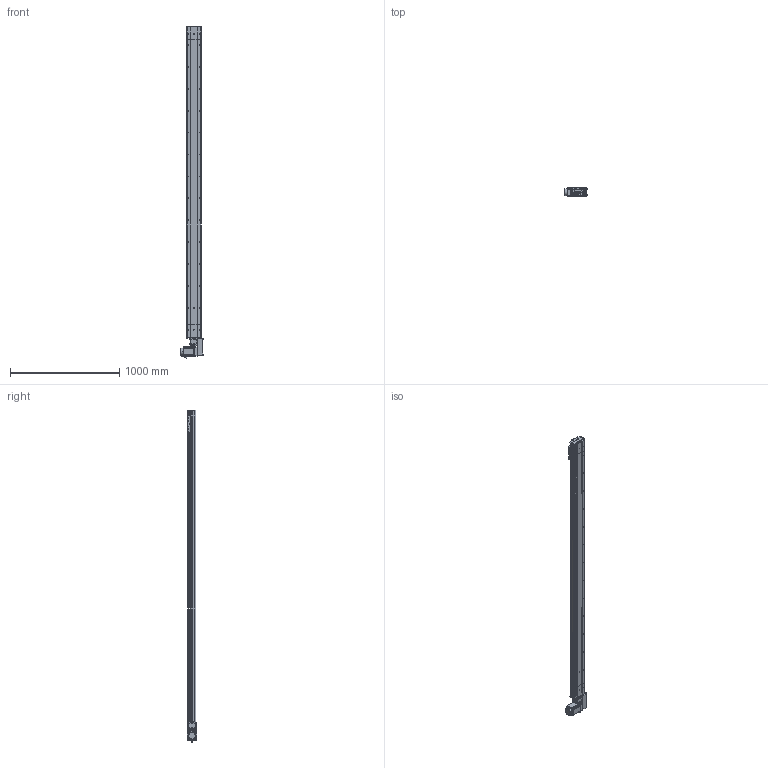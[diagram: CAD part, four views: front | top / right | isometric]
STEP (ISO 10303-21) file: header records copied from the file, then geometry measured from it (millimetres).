
FILE_DESCRIPTION (( 'STEP AP214' ), '1' );
FILE_NAME ('D14 TBH LH S2600.STEP', '2010-06-29T14:35:47', ( 'Conseil Régional Haute-Normandie' ), ( 'Conseil Régional Haute-Normandie' ), 'SwSTEP 2.0', 'SolidWorks 2010', '' );
FILE_SCHEMA (( 'AUTOMOTIVE_DESIGN' ));
Length unit declared in the file: millimetre
Products named in the file (39): vis M5 L8 90°_Default; Vis M5 L16-2_Default; couvercle D14_Default; vis M5 L16_Default; corpl tail D14_Default; Tail D14B_Default; couvercle D14 course L2600_Default; tete d''axe haut D14; plaque de  bout tail D14_Default; chariot D14B_Default; Rail + couroie D14 Course 2600 ; corpl 2600_Default; Arbre+rail tail D14; corp head D14_Default; Moteur motionking 90BLDC100A-640; couvercle D14 head_Default; avant 90BLDC100A-640; renvoi LH_Default; Cache arbre_Default; Couroie_Default; corps 90BLDC100A-640; codeur 90BLDC100-640; poulie tail_Default; Cvis M5 L70_Default; Arbre+rail head D14; couroie 2_Default; poulie head_Default; Plaque racord D14_Default; Conecteur_Default; plaque de  bout head D14 LH_Default; D14 TB H LH_Default; vis M5 L5_Default; Cache_Default; Conecteur2_Default; Chariot D14; vis M5 L12_Default; guide D14; D14 couroie L2600_Default; D14 TBH LH S2600
Assembly tree (68 placements, depth 4):
  D14 TBH LH S2600
    chariot D14B_Default
      guide D14  x2
      vis M5 L12_Default  x4
      Chariot D14
    D14 couroie L2600_Default
      couvercle D14 course L2600_Default
      corpl 2600_Default
      Rail + couroie D14 Course 2600 
    D14 TB H LH_Default
      vis M5 L5_Default  x2
      vis M5 L12_Default  x12
      Arbre+rail head D14
      Cvis M5 L70_Default  x4
      renvoi LH_Default
      Moteur motionking 90BLDC100A-640
        avant 90BLDC100A-640
        codeur 90BLDC100-640
        Conecteur2_Default
        Conecteur_Default
        corps 90BLDC100A-640
      plaque de  bout head D14 LH_Default
      Plaque racord D14_Default
      couroie 2_Default
      Cache arbre_Default
      Vis M5 L16-2_Default  x4
      Cache_Default  x2
      poulie head_Default
      corp head D14_Default
      couvercle D14 head_Default
    Tail D14B_Default
      poulie tail_Default
      plaque de  bout tail D14_Default
      couvercle D14_Default
      corpl tail D14_Default
      vis M5 L12_Default  x4
      vis M5 L8 90°_Default  x2
      Couroie_Default
      vis M5 L16_Default  x2
      tete d''axe haut D14
      Arbre+rail tail D14
Bounding box: 207.2 x 85.9 x 3032.45 mm (x, y, z)
Volume: 10946603.2 mm3; surface area: 3958260.3 mm2
Topology: 92 solids, 92 shells, 2741 faces, 6683 edges, 4314 vertices
Faces by surface type: plane 1617, cylinder 811, bspline 136, torus 89, cone 84, sphere 4
Entity records: 82448 total; most frequent: CARTESIAN_POINT 24077, ORIENTED_EDGE 10226, DIRECTION 10140, EDGE_CURVE 5113, AXIS2_PLACEMENT_3D 3391, VERTEX_POINT 3364, LINE 3358, VECTOR 3358
